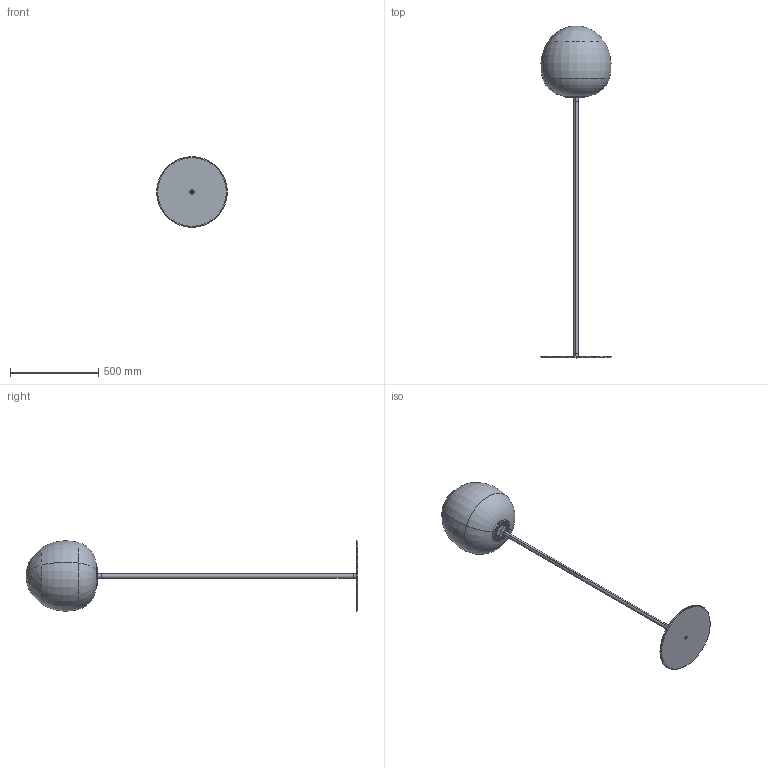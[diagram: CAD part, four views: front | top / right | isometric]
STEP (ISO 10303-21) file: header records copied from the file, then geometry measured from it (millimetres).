
FILE_DESCRIPTION (( 'STEP AP203' ), '1' );
FILE_NAME ('244_XL_F_ME_3D.STEP', '2021-10-25T10:16:47', ( '' ), ( '' ), 'SwSTEP 2.0', 'SolidWorks 2021', '' );
FILE_SCHEMA (( 'CONFIG_CONTROL_DESIGN' ));
Products named in the file (1): 244_XL_F_ME_3D
Bounding box: 400 x 1881.54 x 400 mm (x, y, z)
Volume: 3724117.4 mm3; surface area: 1758247.9 mm2
Topology: 7 solids, 7 shells, 1521 faces, 3891 edges, 2384 vertices
Faces by surface type: bspline 720, cylinder 415, plane 253, cone 123, torus 8, sphere 2
Entity records: 92552 total; most frequent: CARTESIAN_POINT 63754, ORIENTED_EDGE 7750, EDGE_CURVE 3875, DIRECTION 2854, B_SPLINE_CURVE_WITH_KNOTS 2731, VERTEX_POINT 2384, EDGE_LOOP 1573, FACE_OUTER_BOUND 1521
